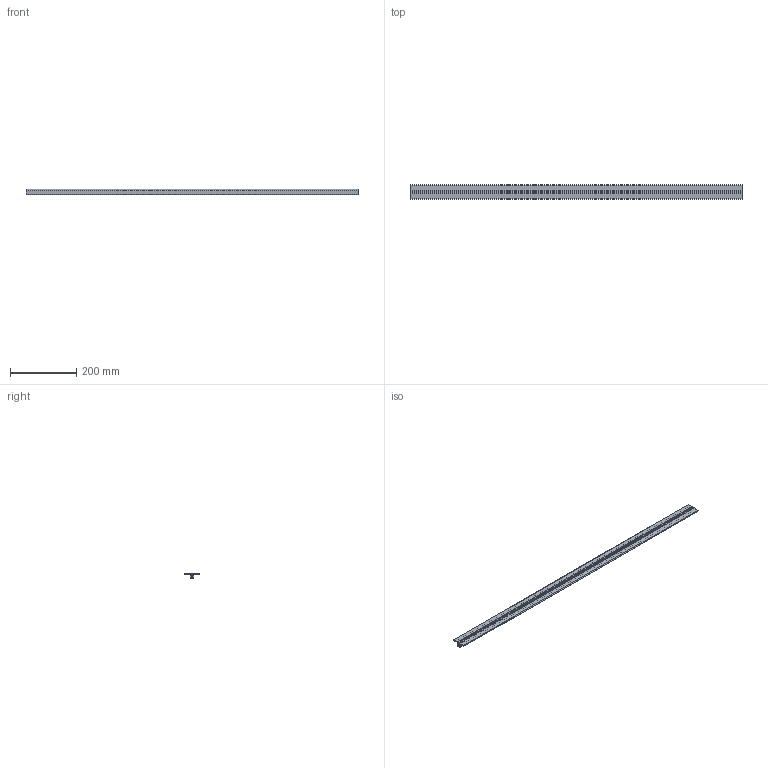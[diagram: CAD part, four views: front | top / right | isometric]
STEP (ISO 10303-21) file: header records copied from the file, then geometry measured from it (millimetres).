
FILE_DESCRIPTION(('no description'),'unknown implementation level');
FILE_NAME('3842993020_162845972.stp',' ',('Bosch Rexroth AG'),('CADClick - KiM GmbH - www.kimweb.de'),'unknown preprocess','ACIS','unknown authorization');
FILE_SCHEMA(('CONFIG_CONTROL_DESIGN'));
Length unit declared in the file: millimetre
Products named in the file (1): 1
Bounding box: 1000 x 44.8 x 16 mm (x, y, z)
Volume: 162346.6 mm3; surface area: 160613.3 mm2
Topology: 1 solids, 1 shells, 97 faces, 285 edges, 190 vertices
Faces by surface type: plane 83, cylinder 14
Entity records: 3231 total; most frequent: CARTESIAN_POINT 573, ORIENTED_EDGE 570, DIRECTION 509, EDGE_CURVE 285, LINE 257, VECTOR 257, VERTEX_POINT 190, AXIS2_PLACEMENT_3D 126
